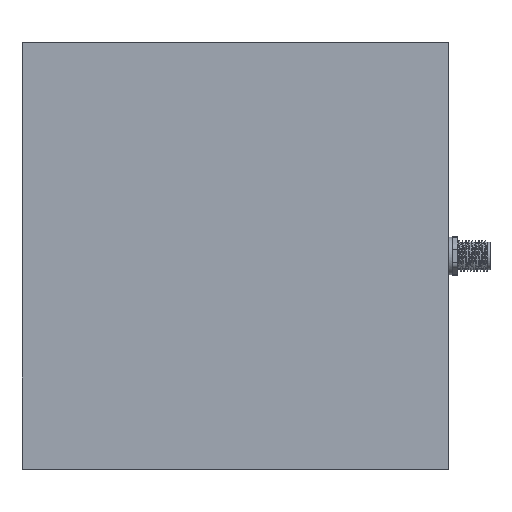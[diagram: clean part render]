
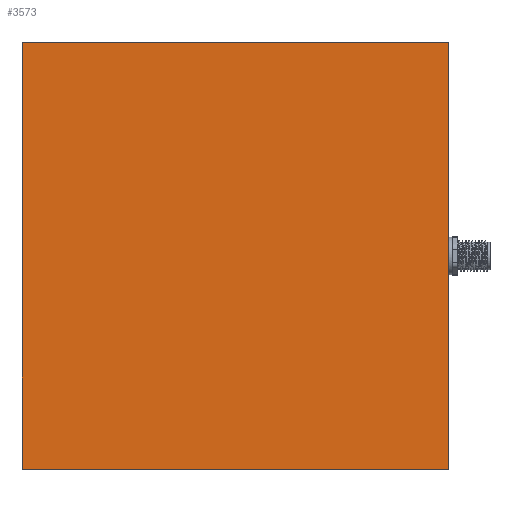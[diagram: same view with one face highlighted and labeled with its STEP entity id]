
A CAD part, top view. The second image highlights one B-rep face of the part: STEP entity #3573.
In plain terms, the highlighted planar face has unit normal (0, 0, 1).
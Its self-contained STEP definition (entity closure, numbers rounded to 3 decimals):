
#3 = VECTOR ( 'NONE', #5824, 1000. ) ;
#76 = ORIENTED_EDGE ( 'NONE', *, *, #3653, .T. ) ;
#1135 = CARTESIAN_POINT ( 'NONE',  ( -5., 158., 21.06 ) ) ;
#2932 = FACE_OUTER_BOUND ( 'NONE', #10006, .T. ) ;
#3166 = DIRECTION ( 'NONE',  ( -1., 0., 0. ) ) ;
#3573 = ADVANCED_FACE ( 'NONE', ( #2932 ), #13646, .F. ) ;
#3612 = VERTEX_POINT ( 'NONE', #4350 ) ;
#3653 = EDGE_CURVE ( 'NONE', #15219, #5775, #5667, .T. ) ;
#3905 = VECTOR ( 'NONE', #9111, 1000. ) ;
#4350 = CARTESIAN_POINT ( 'NONE',  ( -5., -5., 21.06 ) ) ;
#4385 = CARTESIAN_POINT ( 'NONE',  ( 158., 158., 21.06 ) ) ;
#4640 = VECTOR ( 'NONE', #12642, 1000. ) ;
#4871 = VECTOR ( 'NONE', #15207, 1000. ) ;
#5113 = LINE ( 'NONE', #10392, #4640 ) ;
#5667 = LINE ( 'NONE', #1135, #3 ) ;
#5775 = VERTEX_POINT ( 'NONE', #12780 ) ;
#5824 = DIRECTION ( 'NONE',  ( -1., 0., 0. ) ) ;
#7146 = LINE ( 'NONE', #11644, #4871 ) ;
#7873 = ORIENTED_EDGE ( 'NONE', *, *, #9182, .T. ) ;
#8147 = EDGE_CURVE ( 'NONE', #3612, #15359, #7146, .T. ) ;
#9111 = DIRECTION ( 'NONE',  ( 0., 1., 0. ) ) ;
#9182 = EDGE_CURVE ( 'NONE', #5775, #3612, #5113, .T. ) ;
#10006 = EDGE_LOOP ( 'NONE', ( #14939, #14976, #76, #7873 ) ) ;
#10177 = DIRECTION ( 'NONE',  ( 0., 0., -1. ) ) ;
#10392 = CARTESIAN_POINT ( 'NONE',  ( -5., -5., 21.06 ) ) ;
#11419 = AXIS2_PLACEMENT_3D ( 'NONE', #12417, #10177, #3166 ) ;
#11510 = CARTESIAN_POINT ( 'NONE',  ( 158., 158., 21.06 ) ) ;
#11644 = CARTESIAN_POINT ( 'NONE',  ( 158., -5., 21.06 ) ) ;
#11745 = CARTESIAN_POINT ( 'NONE',  ( 158., -5., 21.06 ) ) ;
#12417 = CARTESIAN_POINT ( 'NONE',  ( 0., 0., 21.06 ) ) ;
#12642 = DIRECTION ( 'NONE',  ( 0., -1., 0. ) ) ;
#12780 = CARTESIAN_POINT ( 'NONE',  ( -5., 158., 21.06 ) ) ;
#13646 = PLANE ( 'NONE',  #11419 ) ;
#14536 = EDGE_CURVE ( 'NONE', #15359, #15219, #15073, .T. ) ;
#14939 = ORIENTED_EDGE ( 'NONE', *, *, #8147, .T. ) ;
#14976 = ORIENTED_EDGE ( 'NONE', *, *, #14536, .T. ) ;
#15073 = LINE ( 'NONE', #11510, #3905 ) ;
#15207 = DIRECTION ( 'NONE',  ( 1., 0., 0. ) ) ;
#15219 = VERTEX_POINT ( 'NONE', #4385 ) ;
#15359 = VERTEX_POINT ( 'NONE', #11745 ) ;
